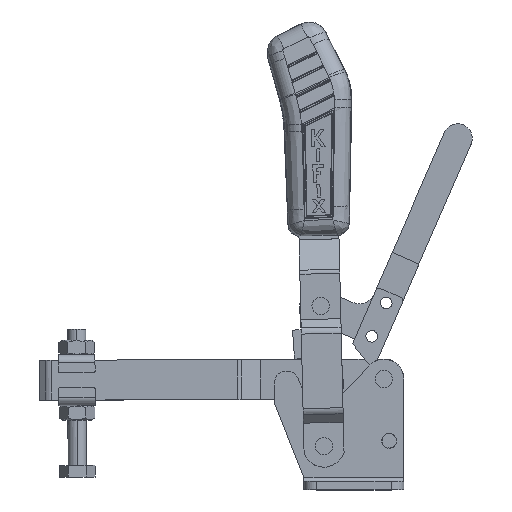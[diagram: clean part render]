
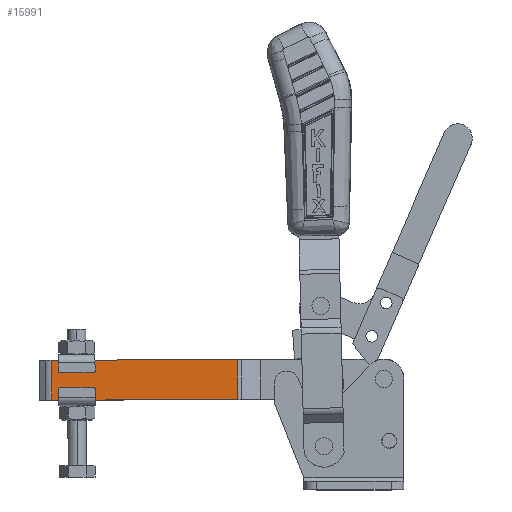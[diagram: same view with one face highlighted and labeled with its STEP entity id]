
A CAD part, top view. The second image highlights one B-rep face of the part: STEP entity #15991.
In plain terms, the highlighted planar face has unit normal (0, 0, 1) as drawn and (0, 1, 0) by its records, which use the part's own axes.
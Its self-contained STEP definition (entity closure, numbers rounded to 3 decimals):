
#706 = PLANE ( 'NONE',  #20363 ) ;
#1050 = VERTEX_POINT ( 'NONE', #15665 ) ;
#1270 = CARTESIAN_POINT ( 'NONE',  ( -108.456, 0., 11. ) ) ;
#1378 = VECTOR ( 'NONE', #26170, 1000. ) ;
#1659 = FACE_OUTER_BOUND ( 'NONE', #6221, .T. ) ;
#1662 = CARTESIAN_POINT ( 'NONE',  ( -108.456, 0., -11. ) ) ;
#1737 = EDGE_CURVE ( 'NONE', #1050, #5663, #3281, .T. ) ;
#3281 = LINE ( 'NONE', #1270, #15456 ) ;
#4048 = CARTESIAN_POINT ( 'NONE',  ( -109.5, 0., -11. ) ) ;
#5494 = DIRECTION ( 'NONE',  ( 0., 0., -1. ) ) ;
#5647 = VERTEX_POINT ( 'NONE', #16181 ) ;
#5663 = VERTEX_POINT ( 'NONE', #1662 ) ;
#6221 = EDGE_LOOP ( 'NONE', ( #6928, #22290, #26373, #11016 ) ) ;
#6928 = ORIENTED_EDGE ( 'NONE', *, *, #14431, .F. ) ;
#7151 = VECTOR ( 'NONE', #8962, 1000. ) ;
#8962 = DIRECTION ( 'NONE',  ( 0., 0., 1. ) ) ;
#9032 = VECTOR ( 'NONE', #14518, 1000. ) ;
#9692 = VERTEX_POINT ( 'NONE', #22229 ) ;
#9726 = LINE ( 'NONE', #4048, #9032 ) ;
#11016 = ORIENTED_EDGE ( 'NONE', *, *, #20242, .T. ) ;
#13399 = DIRECTION ( 'NONE',  ( 0., 0., 1. ) ) ;
#14431 = EDGE_CURVE ( 'NONE', #9692, #5647, #23127, .T. ) ;
#14518 = DIRECTION ( 'NONE',  ( 1., 0., 0. ) ) ;
#14818 = LINE ( 'NONE', #17689, #1378 ) ;
#15456 = VECTOR ( 'NONE', #5494, 1000. ) ;
#15665 = CARTESIAN_POINT ( 'NONE',  ( -108.456, 0., 11. ) ) ;
#15991 = ADVANCED_FACE ( 'NONE', ( #1659 ), #706, .T. ) ;
#16181 = CARTESIAN_POINT ( 'NONE',  ( -6.004, 0., 11. ) ) ;
#17689 = CARTESIAN_POINT ( 'NONE',  ( -109.5, 0., 11. ) ) ;
#20242 = EDGE_CURVE ( 'NONE', #1050, #5647, #14818, .T. ) ;
#20363 = AXIS2_PLACEMENT_3D ( 'NONE', #23926, #26009, #13399 ) ;
#21588 = CARTESIAN_POINT ( 'NONE',  ( -6.004, 0., 11. ) ) ;
#22229 = CARTESIAN_POINT ( 'NONE',  ( -6.004, 0., -11. ) ) ;
#22290 = ORIENTED_EDGE ( 'NONE', *, *, #25971, .F. ) ;
#23127 = LINE ( 'NONE', #21588, #7151 ) ;
#23926 = CARTESIAN_POINT ( 'NONE',  ( -109.5, 0., 11. ) ) ;
#25971 = EDGE_CURVE ( 'NONE', #5663, #9692, #9726, .T. ) ;
#26009 = DIRECTION ( 'NONE',  ( 0., 1., 0. ) ) ;
#26170 = DIRECTION ( 'NONE',  ( 1., 0., 0. ) ) ;
#26373 = ORIENTED_EDGE ( 'NONE', *, *, #1737, .F. ) ;
